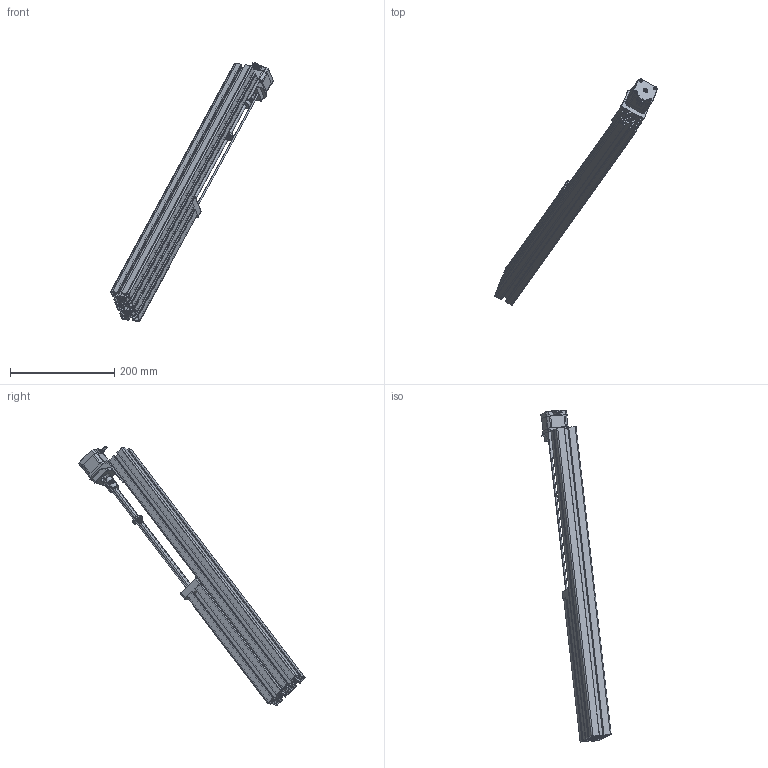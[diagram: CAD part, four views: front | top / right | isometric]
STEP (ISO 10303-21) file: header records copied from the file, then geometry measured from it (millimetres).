
FILE_DESCRIPTION (( 'STEP AP214' ), '1' );
FILE_NAME ('Mecanismo tuerca-tornillo SP.STEP', '2019-05-12T01:50:28', ( '' ), ( '' ), 'SwSTEP 2.0', 'SolidWorks 2018', '' );
FILE_SCHEMA (( 'AUTOMOTIVE_DESIGN' ));
Length unit declared in the file: millimetre
Products named in the file (11): Tornillo sin fin SP; Porta balero SP; Soporte de guia superior; Tuerca trapezoidal; Perfil extruido SP_End Finishing_Non-Machined End Finish Options_Type_Single_; Guia SP; Acople de motor_Predeterminado; Motor de pasos_Varsayilan; Base de motor; Balero SFK 608; Mecanismo tuerca-tornillo SP
Assembly tree (11 placements, depth 2):
  Mecanismo tuerca-tornillo SP
    Balero SFK 608
    Motor de pasos_Varsayilan
    Acople de motor_Predeterminado
    Guia SP  x2
    Perfil extruido SP_End Finishing_Non-Machined End Finish Options_Type_Single_
    Tuerca trapezoidal
    Base de motor
    Soporte de guia superior
    Porta balero SP
    Tornillo sin fin SP
Bounding box: 313.23 x 434.81 x 498.04 mm (x, y, z)
Volume: 665002.4 mm3; surface area: 573425.3 mm2
Topology: 33 solids, 33 shells, 1791 faces, 4823 edges, 3059 vertices
Faces by surface type: plane 765, cylinder 511, sphere 170, cone 158, torus 117, bspline 70
Entity records: 81773 total; most frequent: CARTESIAN_POINT 26319, ORIENTED_EDGE 9486, DIRECTION 9036, EDGE_CURVE 4743, AXIS2_PLACEMENT_3D 3290, VERTEX_POINT 3031, LINE 2456, VECTOR 2456
